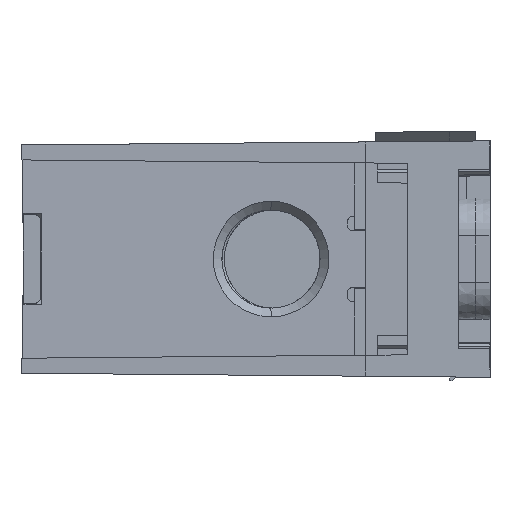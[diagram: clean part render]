
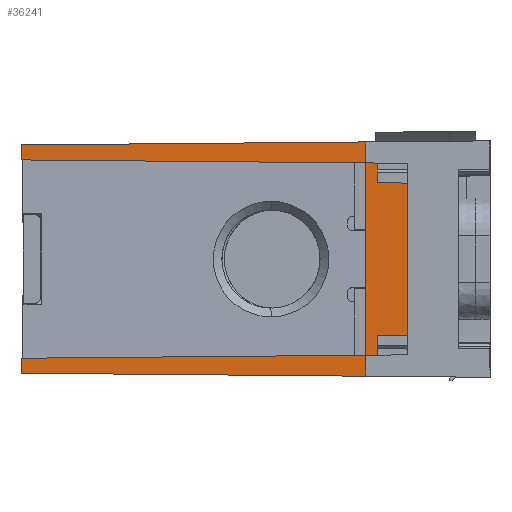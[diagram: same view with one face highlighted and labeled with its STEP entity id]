
A CAD part, left-side view. The second image highlights one B-rep face of the part: STEP entity #36241.
In plain terms, the highlighted planar face has unit normal (-1, 0.018, 0).
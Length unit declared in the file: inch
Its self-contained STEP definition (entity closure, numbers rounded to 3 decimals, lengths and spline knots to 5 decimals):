
#20069 = CARTESIAN_POINT ( 'NONE',  ( -1.22103, 0.391, 0.41371 ) ) ;
#20070 = DIRECTION ( 'NONE',  ( -0.017, -1., -0.017 ) ) ;
#20071 = VECTOR ( 'NONE', #20070, 39.37008 ) ;
#20072 = CARTESIAN_POINT ( 'NONE',  ( -1.18784, 2.29267, 0.44691 ) ) ;
#20078 = LINE ( 'NONE', #20072, #20071 ) ;
#20084 = DIRECTION ( 'NONE',  ( -0.017, -1., 0.017 ) ) ;
#20085 = VECTOR ( 'NONE', #20084, 39.37008 ) ;
#20086 = CARTESIAN_POINT ( 'NONE',  ( -1.18743, 2.31612, -0.44732 ) ) ;
#20087 = LINE ( 'NONE', #20086, #20085 ) ;
#20092 = CARTESIAN_POINT ( 'NONE',  ( -1.22103, 0.391, -0.41371 ) ) ;
#20093 = DIRECTION ( 'NONE',  ( 0., 0., 1. ) ) ;
#20094 = VECTOR ( 'NONE', #20093, 39.37008 ) ;
#20095 = CARTESIAN_POINT ( 'NONE',  ( -1.22103, 0.391, -0.6722 ) ) ;
#20096 = LINE ( 'NONE', #20095, #20094 ) ;
#20104 = CARTESIAN_POINT ( 'NONE',  ( -1.22649, 0.07866, 0.40826 ) ) ;
#20105 = CARTESIAN_POINT ( 'NONE',  ( -1.22649, 0.07866, -0.40826 ) ) ;
#20106 = DIRECTION ( 'NONE',  ( 0., 0., 1. ) ) ;
#20107 = VECTOR ( 'NONE', #20106, 39.37008 ) ;
#20108 = CARTESIAN_POINT ( 'NONE',  ( -1.22649, 0.07866, 0.51647 ) ) ;
#20109 = LINE ( 'NONE', #20108, #20107 ) ;
#20125 = DIRECTION ( 'NONE',  ( 0., 0., 1. ) ) ;
#20126 = VECTOR ( 'NONE', #20125, 39.37008 ) ;
#20127 = CARTESIAN_POINT ( 'NONE',  ( -1.22103, 0.391, -0.6722 ) ) ;
#20128 = LINE ( 'NONE', #20127, #20126 ) ;
#20159 = CARTESIAN_POINT ( 'NONE',  ( -1.21996, 0.4525, 0.52 ) ) ;
#20160 = DIRECTION ( 'NONE',  ( -0.017, -1., -0.009 ) ) ;
#20161 = VECTOR ( 'NONE', #20160, 39.37008 ) ;
#20162 = CARTESIAN_POINT ( 'NONE',  ( -1.18768, 2.30166, 0.53614 ) ) ;
#20163 = LINE ( 'NONE', #20162, #20161 ) ;
#20170 = CARTESIAN_POINT ( 'NONE',  ( -1.1875, 2.3122, 0.53623 ) ) ;
#20171 = DIRECTION ( 'NONE',  ( 0., 0., -1. ) ) ;
#20172 = VECTOR ( 'NONE', #20171, 39.37008 ) ;
#20173 = CARTESIAN_POINT ( 'NONE',  ( -1.1875, 2.3122, 0.63285 ) ) ;
#20174 = LINE ( 'NONE', #20173, #20172 ) ;
#20192 = DIRECTION ( 'NONE',  ( 0.017, 1., 0. ) ) ;
#20193 = DIRECTION ( 'NONE',  ( 1., -0.017, 0. ) ) ;
#20195 = CARTESIAN_POINT ( 'NONE',  ( -1.1875, 2.3122, -0.6722 ) ) ;
#20196 = AXIS2_PLACEMENT_3D ( 'NONE', #20195, #20193, #20192 ) ;
#20197 = FACE_OUTER_BOUND ( 'NONE', #36121, .T. ) ;
#20201 = PLANE ( 'NONE',  #20196 ) ;
#20209 = CARTESIAN_POINT ( 'NONE',  ( -1.1875, 2.3122, -0.53623 ) ) ;
#20210 = DIRECTION ( 'NONE',  ( 0.017, 1., -0.009 ) ) ;
#20211 = VECTOR ( 'NONE', #20210, 39.37008 ) ;
#20212 = CARTESIAN_POINT ( 'NONE',  ( -1.18748, 2.31339, -0.53624 ) ) ;
#20213 = LINE ( 'NONE', #20212, #20211 ) ;
#20214 = CARTESIAN_POINT ( 'NONE',  ( -1.21996, 0.4525, -0.52 ) ) ;
#20215 = DIRECTION ( 'NONE',  ( 0., 0., -1. ) ) ;
#20216 = VECTOR ( 'NONE', #20215, 39.37008 ) ;
#20217 = CARTESIAN_POINT ( 'NONE',  ( -1.21996, 0.4525, -0.6722 ) ) ;
#20218 = LINE ( 'NONE', #20217, #20216 ) ;
#32770 = CARTESIAN_POINT ( 'NONE',  ( -1.1875, 2.3122, -0.61731 ) ) ;
#32771 = DIRECTION ( 'NONE',  ( 0.017, 1., 0.009 ) ) ;
#32772 = VECTOR ( 'NONE', #32771, 39.37008 ) ;
#32773 = CARTESIAN_POINT ( 'NONE',  ( -1.21744, 0.59676, -0.63228 ) ) ;
#32774 = LINE ( 'NONE', #32773, #32772 ) ;
#32775 = CARTESIAN_POINT ( 'NONE',  ( -1.22103, 0.391, -0.63407 ) ) ;
#33558 = DIRECTION ( 'NONE',  ( -0.017, -1., 0.009 ) ) ;
#33559 = VECTOR ( 'NONE', #33558, 39.37008 ) ;
#33560 = CARTESIAN_POINT ( 'NONE',  ( -1.21744, 0.59676, 0.63228 ) ) ;
#33561 = LINE ( 'NONE', #33560, #33559 ) ;
#33562 = DIRECTION ( 'NONE',  ( 0., 0., -1. ) ) ;
#33564 = VECTOR ( 'NONE', #33562, 39.37008 ) ;
#33565 = CARTESIAN_POINT ( 'NONE',  ( -1.1875, 2.3122, 0.63285 ) ) ;
#33566 = LINE ( 'NONE', #33565, #33564 ) ;
#33568 = CARTESIAN_POINT ( 'NONE',  ( -1.22103, 0.391, 0.63407 ) ) ;
#33600 = CARTESIAN_POINT ( 'NONE',  ( -1.1875, 2.3122, 0.61731 ) ) ;
#36121 = EDGE_LOOP ( 'NONE', ( #36160, #36165, #36170, #36172, #36178, #36181, #36217, #36223, #36228, #36233, #36239, #36272 ) ) ;
#36160 = ORIENTED_EDGE ( 'NONE', *, *, #36161, .T. ) ;
#36161 = EDGE_CURVE ( 'NONE', #43535, #36163, #20096, .T. ) ;
#36163 = VERTEX_POINT ( 'NONE', #20092 ) ;
#36165 = ORIENTED_EDGE ( 'NONE', *, *, #36167, .T. ) ;
#36167 = EDGE_CURVE ( 'NONE', #36163, #36193, #20087, .T. ) ;
#36170 = ORIENTED_EDGE ( 'NONE', *, *, #36192, .T. ) ;
#36172 = ORIENTED_EDGE ( 'NONE', *, *, #36174, .F. ) ;
#36174 = EDGE_CURVE ( 'NONE', #36176, #36195, #20078, .T. ) ;
#36176 = VERTEX_POINT ( 'NONE', #20069 ) ;
#36178 = ORIENTED_EDGE ( 'NONE', *, *, #36180, .T. ) ;
#36180 = EDGE_CURVE ( 'NONE', #36176, #43938, #20128, .T. ) ;
#36181 = ORIENTED_EDGE ( 'NONE', *, *, #43942, .F. ) ;
#36192 = EDGE_CURVE ( 'NONE', #36193, #36195, #20109, .T. ) ;
#36193 = VERTEX_POINT ( 'NONE', #20105 ) ;
#36195 = VERTEX_POINT ( 'NONE', #20104 ) ;
#36217 = ORIENTED_EDGE ( 'NONE', *, *, #36219, .T. ) ;
#36219 = EDGE_CURVE ( 'NONE', #43953, #36220, #20174, .T. ) ;
#36220 = VERTEX_POINT ( 'NONE', #20170 ) ;
#36223 = ORIENTED_EDGE ( 'NONE', *, *, #36224, .T. ) ;
#36224 = EDGE_CURVE ( 'NONE', #36220, #36226, #20163, .T. ) ;
#36226 = VERTEX_POINT ( 'NONE', #20159 ) ;
#36228 = ORIENTED_EDGE ( 'NONE', *, *, #36230, .T. ) ;
#36230 = EDGE_CURVE ( 'NONE', #36226, #36231, #20218, .T. ) ;
#36231 = VERTEX_POINT ( 'NONE', #20214 ) ;
#36233 = ORIENTED_EDGE ( 'NONE', *, *, #36235, .T. ) ;
#36235 = EDGE_CURVE ( 'NONE', #36231, #36236, #20213, .T. ) ;
#36236 = VERTEX_POINT ( 'NONE', #20209 ) ;
#36239 = ORIENTED_EDGE ( 'NONE', *, *, #43940, .T. ) ;
#36241 = ADVANCED_FACE ( 'NONE', ( #20197 ), #20201, .F. ) ;
#36272 = ORIENTED_EDGE ( 'NONE', *, *, #43537, .F. ) ;
#43535 = VERTEX_POINT ( 'NONE', #32775 ) ;
#43537 = EDGE_CURVE ( 'NONE', #43535, #43538, #32774, .T. ) ;
#43538 = VERTEX_POINT ( 'NONE', #32770 ) ;
#43938 = VERTEX_POINT ( 'NONE', #33568 ) ;
#43940 = EDGE_CURVE ( 'NONE', #36236, #43538, #33566, .T. ) ;
#43942 = EDGE_CURVE ( 'NONE', #43953, #43938, #33561, .T. ) ;
#43953 = VERTEX_POINT ( 'NONE', #33600 ) ;
